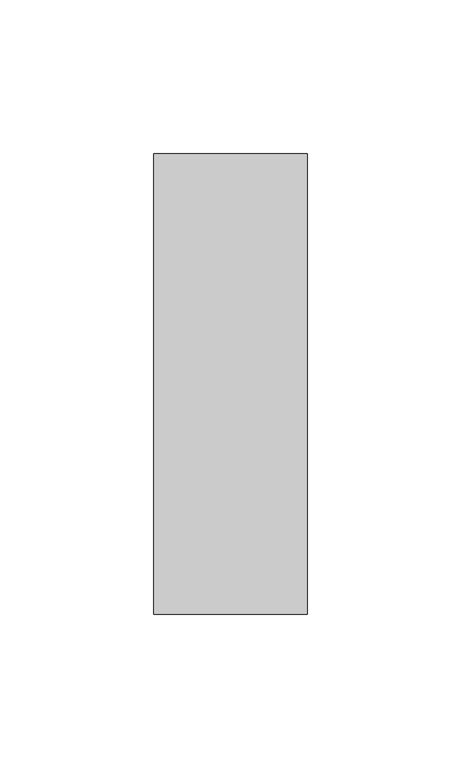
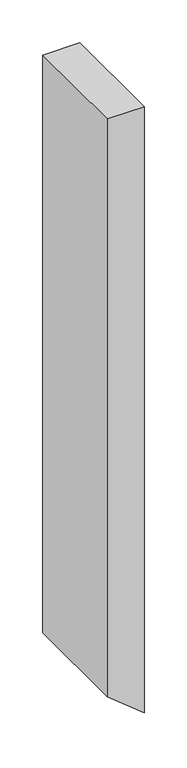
"""IFC4 building model written with IfcOpenShell, lengths in millimetres: member geometry, Прямоугольный импост : 50 x 150 мм."""

from ifc_helpers import new_model, si_unit, frame, origin, place, context, project, spatial, polyline, outline, extrude, source, transform, mapped, element, save


def member_92b56af5(model_context):
    return source(origin(), model_context, "Body", "SweptSolid", [
        extrude(outline(polyline([(0.0, 0.0), (0.0, -50.0), (-823.4768412, -50.0), (-864.1063137, 0.0), (0.0, 0.0)])), frame((0.0, -75.0, 0.0), z_axis=(0.0, 1.0, 0.0), x_axis=(0.0, 0.0, 1.0)), (0.0, 0.0, 1.0), 150.0),
    ])


if __name__ == "__main__":
    model = new_model("IFC4")
    model_context = context("Model", 3, world=origin())
    ifc_project = project(units=[si_unit("LENGTHUNIT", "METRE", prefix="MILLI")], contexts=[model_context])
    site = spatial("IfcSite", under=ifc_project)
    building = spatial("IfcBuilding", under=site)
    placement = place(None, origin())
    member_shape = member_92b56af5(model_context)
    element("IfcMember", 1, ObjectType="Прямоугольный импост : 50 x 150 мм", at=placement, inside=building, context=model_context, shape_type="MappedRepresentation", body=[
        mapped(member_shape, transform((0.0, 0.0, 0.0), x_axis=(1.0, 0.0, 0.0), y_axis=(0.0, 1.0, 0.0), z_axis=(0.0, 0.0, 1.0))),
    ])
    save(model, "model.ifc")
